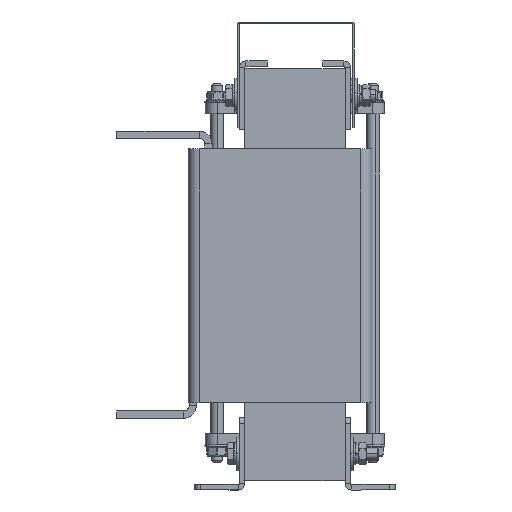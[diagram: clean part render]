
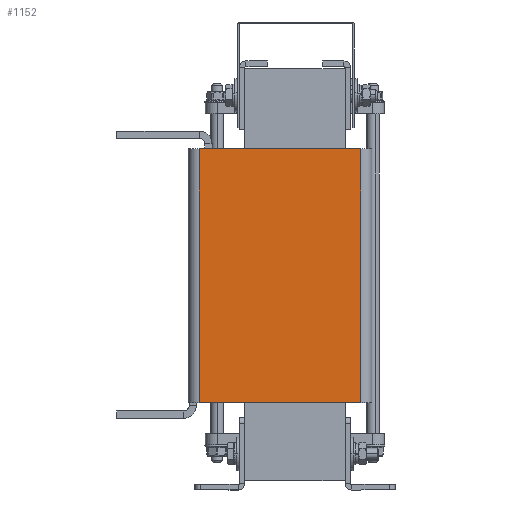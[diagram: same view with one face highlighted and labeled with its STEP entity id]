
A CAD part, left-side view. The second image highlights one B-rep face of the part: STEP entity #1152.
In plain terms, the highlighted planar face has unit normal (-1, 0, 0).
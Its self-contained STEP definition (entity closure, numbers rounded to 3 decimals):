
#64 = EDGE_CURVE ( 'NONE', #12511, #5843, #9237, .T. ) ;
#410 = PLANE ( 'NONE',  #7494 ) ;
#622 = DIRECTION ( 'NONE',  ( -1., 0., 0. ) ) ;
#669 = DIRECTION ( 'NONE',  ( 0., -1., 0. ) ) ;
#1152 = ADVANCED_FACE ( 'NONE', ( #13286 ), #410, .T. ) ;
#1510 = VECTOR ( 'NONE', #7628, 1000. ) ;
#1946 = VECTOR ( 'NONE', #669, 1000. ) ;
#2339 = CARTESIAN_POINT ( 'NONE',  ( -45., 96., 0. ) ) ;
#2756 = CARTESIAN_POINT ( 'NONE',  ( -45., 86., -228. ) ) ;
#3942 = ORIENTED_EDGE ( 'NONE', *, *, #6981, .T. ) ;
#4334 = VERTEX_POINT ( 'NONE', #11912 ) ;
#4897 = VECTOR ( 'NONE', #7897, 1000. ) ;
#5128 = LINE ( 'NONE', #9439, #6089 ) ;
#5434 = VERTEX_POINT ( 'NONE', #12223 ) ;
#5809 = ORIENTED_EDGE ( 'NONE', *, *, #12983, .T. ) ;
#5843 = VERTEX_POINT ( 'NONE', #11168 ) ;
#6089 = VECTOR ( 'NONE', #8297, 1000. ) ;
#6802 = EDGE_CURVE ( 'NONE', #5434, #4334, #7690, .T. ) ;
#6981 = EDGE_CURVE ( 'NONE', #5434, #12511, #12069, .T. ) ;
#7051 = CARTESIAN_POINT ( 'NONE',  ( -45., 96., -228. ) ) ;
#7494 = AXIS2_PLACEMENT_3D ( 'NONE', #7051, #622, #10049 ) ;
#7628 = DIRECTION ( 'NONE',  ( 0., -1., 0. ) ) ;
#7690 = LINE ( 'NONE', #2339, #1510 ) ;
#7840 = EDGE_LOOP ( 'NONE', ( #13261, #3942, #13762, #5809 ) ) ;
#7897 = DIRECTION ( 'NONE',  ( 0., 0., -1. ) ) ;
#8297 = DIRECTION ( 'NONE',  ( 0., 0., 1. ) ) ;
#9237 = LINE ( 'NONE', #11358, #1946 ) ;
#9439 = CARTESIAN_POINT ( 'NONE',  ( -45., -59., -228. ) ) ;
#9892 = CARTESIAN_POINT ( 'NONE',  ( -45., 86., -228. ) ) ;
#10049 = DIRECTION ( 'NONE',  ( 0., 0., 1. ) ) ;
#11168 = CARTESIAN_POINT ( 'NONE',  ( -45., -59., -228. ) ) ;
#11358 = CARTESIAN_POINT ( 'NONE',  ( -45., 96., -228. ) ) ;
#11912 = CARTESIAN_POINT ( 'NONE',  ( -45., -59., 0. ) ) ;
#12069 = LINE ( 'NONE', #9892, #4897 ) ;
#12223 = CARTESIAN_POINT ( 'NONE',  ( -45., 86., 0. ) ) ;
#12511 = VERTEX_POINT ( 'NONE', #2756 ) ;
#12983 = EDGE_CURVE ( 'NONE', #5843, #4334, #5128, .T. ) ;
#13261 = ORIENTED_EDGE ( 'NONE', *, *, #6802, .F. ) ;
#13286 = FACE_OUTER_BOUND ( 'NONE', #7840, .T. ) ;
#13762 = ORIENTED_EDGE ( 'NONE', *, *, #64, .T. ) ;
